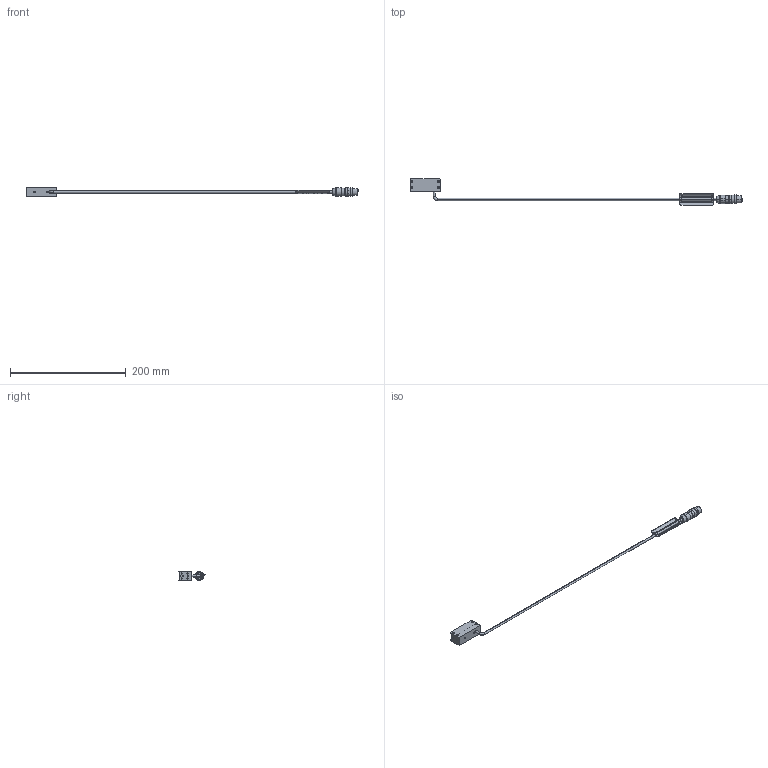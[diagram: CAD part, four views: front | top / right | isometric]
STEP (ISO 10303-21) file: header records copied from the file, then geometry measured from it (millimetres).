
FILE_DESCRIPTION (( 'STEP AP203' ), '1' );
FILE_NAME ('A21805A0101001A-001.STEP', '2024-04-25T10:27:19', ( '' ), ( '' ), 'SwSTEP 2.0', 'SolidWorks 2023', '' );
FILE_SCHEMA (( 'CONFIG_CONTROL_DESIGN' ));
Products named in the file (1): A21805A0101001A-001
Bounding box: 573.85 x 45.5 x 17 mm (x, y, z)
Volume: 24265 mm3; surface area: 20570.6 mm2
Topology: 13 solids, 73 shells, 1590 faces, 3791 edges, 2446 vertices
Faces by surface type: plane 725, cylinder 460, cone 190, bspline 149, sphere 60, torus 6
Entity records: 55768 total; most frequent: CARTESIAN_POINT 19055, DIRECTION 7557, ORIENTED_EDGE 7534, EDGE_CURVE 3767, AXIS2_PLACEMENT_3D 2734, VERTEX_POINT 2446, LINE 2089, VECTOR 2089
